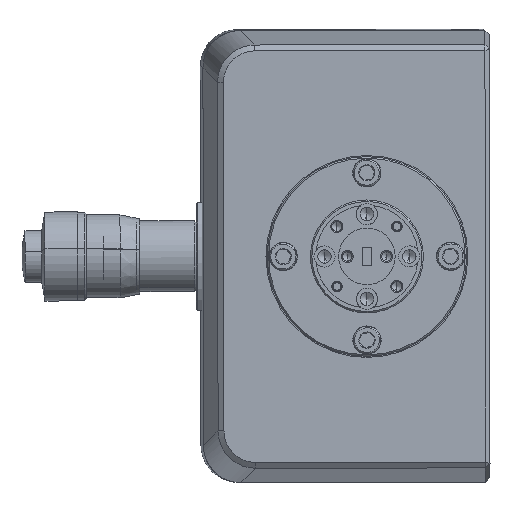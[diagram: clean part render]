
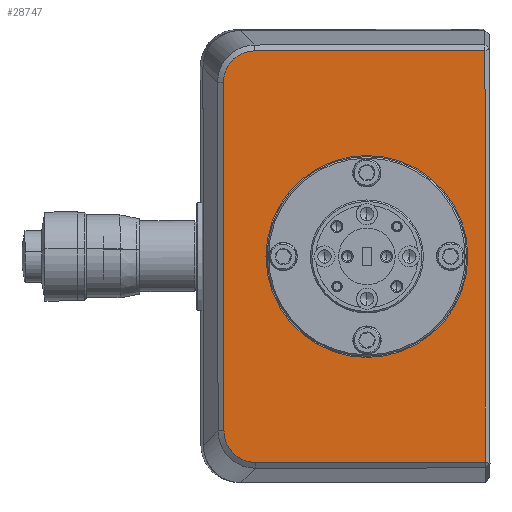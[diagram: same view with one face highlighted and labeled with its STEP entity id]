
A CAD part, left-side view. The second image highlights one B-rep face of the part: STEP entity #28747.
In plain terms, the highlighted planar face has unit normal (-1, -0.002, -0.001).
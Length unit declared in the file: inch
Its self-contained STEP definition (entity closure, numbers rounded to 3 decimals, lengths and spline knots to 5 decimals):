
#11 = EDGE_CURVE ( 'NONE', #9768, #22470, #25465, .T. ) ;
#43 = LINE ( 'NONE', #30064, #4900 ) ;
#2457 = ORIENTED_EDGE ( 'NONE', *, *, #20871, .T. ) ;
#2834 = CARTESIAN_POINT ( 'NONE',  ( -3.34511, -6.70695, -0.03451 ) ) ;
#2913 = CARTESIAN_POINT ( 'NONE',  ( -3.34369, -6.74883, -2.64268 ) ) ;
#3746 = CARTESIAN_POINT ( 'NONE',  ( -3.34302, -7.61697, -1.31819 ) ) ;
#3754 = VECTOR ( 'NONE', #79332, 39.37008 ) ;
#4823 = CARTESIAN_POINT ( 'NONE',  ( -3.34489, -6.87405, 0.04592 ) ) ;
#4900 = VECTOR ( 'NONE', #29656, 39.37008 ) ;
#5838 = VECTOR ( 'NONE', #18060, 39.37008 ) ;
#6016 = AXIS2_PLACEMENT_3D ( 'NONE', #56012, #50329, #24823 ) ;
#8193 = CARTESIAN_POINT ( 'NONE',  ( -3.34389, -6.66843, -2.50307 ) ) ;
#8498 = CARTESIAN_POINT ( 'NONE',  ( -3.34507, -6.74541, 0.00403 ) ) ;
#9415 = CARTESIAN_POINT ( 'NONE',  ( -3.34377, -6.71028, -2.60422 ) ) ;
#9500 = CARTESIAN_POINT ( 'NONE',  ( -3.34267, -7.61784, -1.98819 ) ) ;
#9768 = VERTEX_POINT ( 'NONE', #40094 ) ;
#11404 = ORIENTED_EDGE ( 'NONE', *, *, #11, .T. ) ;
#13322 = VECTOR ( 'NONE', #25897, 39.37008 ) ;
#15455 = CARTESIAN_POINT ( 'NONE',  ( -3.34504, -6.76862, 0.01956 ) ) ;
#15569 = DIRECTION ( 'NONE',  ( -1., -0.002, -0.001 ) ) ;
#15940 = CARTESIAN_POINT ( 'NONE',  ( -3.34347, -6.87759, -2.68423 ) ) ;
#16104 = VERTEX_POINT ( 'NONE', #22390 ) ;
#18060 = DIRECTION ( 'NONE',  ( 0.002, -1., 0.001 ) ) ;
#20376 = CARTESIAN_POINT ( 'NONE',  ( -3.34387, -6.6739, -2.53056 ) ) ;
#20871 = EDGE_CURVE ( 'NONE', #35560, #9768, #66688, .T. ) ;
#21774 = CARTESIAN_POINT ( 'NONE',  ( -3.34511, -6.6654, -0.16327 ) ) ;
#22390 = CARTESIAN_POINT ( 'NONE',  ( -3.34391, -6.6684, -2.47558 ) ) ;
#22470 = VERTEX_POINT ( 'NONE', #73105 ) ;
#23542 = B_SPLINE_CURVE_WITH_KNOTS ( 'NONE', 3,
 ( #69815, #8193, #20376, #40578, #9415, #2913, #33313, #32923, #59243, #15940 ),
 .UNSPECIFIED., .F., .F.,
 ( 4, 2, 2, 2, 4 ),
 ( 0., 0.25, 0.5, 0.75, 1. ),
 .UNSPECIFIED. ) ;
#24823 = DIRECTION ( 'NONE',  ( 0.001, -0.001, -1. ) ) ;
#25237 = ORIENTED_EDGE ( 'NONE', *, *, #73577, .T. ) ;
#25465 = LINE ( 'NONE', #49759, #13322 ) ;
#25897 = DIRECTION ( 'NONE',  ( -0.001, 0.001, 1. ) ) ;
#26037 = ORIENTED_EDGE ( 'NONE', *, *, #51695, .F. ) ;
#27271 = ORIENTED_EDGE ( 'NONE', *, *, #27786, .F. ) ;
#27786 = EDGE_CURVE ( 'NONE', #57842, #35313, #32489, .T. ) ;
#28373 = EDGE_LOOP ( 'NONE', ( #26037, #27271 ) ) ;
#28747 = ADVANCED_FACE ( 'NONE', ( #60917, #43012 ), #78756, .F. ) ;
#29656 = DIRECTION ( 'NONE',  ( -0.002, 1., -0.001 ) ) ;
#30064 = CARTESIAN_POINT ( 'NONE',  ( -3.34394, -7.4802, 0.04671 ) ) ;
#32489 = CIRCLE ( 'NONE', #54552, 0.67 ) ;
#32923 = CARTESIAN_POINT ( 'NONE',  ( -3.34356, -6.82259, -2.67887 ) ) ;
#33229 = CARTESIAN_POINT ( 'NONE',  ( -3.34512, -6.6915, -0.05777 ) ) ;
#33313 = CARTESIAN_POINT ( 'NONE',  ( -3.34365, -6.77209, -2.65813 ) ) ;
#35313 = VERTEX_POINT ( 'NONE', #62591 ) ;
#35560 = VERTEX_POINT ( 'NONE', #72946 ) ;
#37311 = DIRECTION ( 'NONE',  ( -1., -0.002, -0.001 ) ) ;
#38785 = EDGE_CURVE ( 'NONE', #45773, #64054, #62406, .T. ) ;
#39288 = CARTESIAN_POINT ( 'NONE',  ( -3.34498, -6.81907, 0.04042 ) ) ;
#40094 = CARTESIAN_POINT ( 'NONE',  ( -3.34109, -8.40374, -2.68225 ) ) ;
#40213 = DIRECTION ( 'NONE',  ( -0.001, 0.001, 1. ) ) ;
#40495 = EDGE_CURVE ( 'NONE', #22470, #45773, #43, .T. ) ;
#40578 = CARTESIAN_POINT ( 'NONE',  ( -3.34381, -6.69476, -2.58101 ) ) ;
#41603 = LINE ( 'NONE', #48100, #3754 ) ;
#43012 = FACE_BOUND ( 'NONE', #28373, .T. ) ;
#45000 = DIRECTION ( 'NONE',  ( -0.001, 0.001, 1. ) ) ;
#45373 = CARTESIAN_POINT ( 'NONE',  ( -3.34489, -6.87405, 0.04592 ) ) ;
#45773 = VERTEX_POINT ( 'NONE', #4823 ) ;
#46153 = CARTESIAN_POINT ( 'NONE',  ( -3.34511, -6.6654, -0.16327 ) ) ;
#46218 = CIRCLE ( 'NONE', #50102, 0.67 ) ;
#47695 = EDGE_CURVE ( 'NONE', #16104, #35560, #23542, .T. ) ;
#48100 = CARTESIAN_POINT ( 'NONE',  ( -3.34451, -6.6669, -1.31942 ) ) ;
#49759 = CARTESIAN_POINT ( 'NONE',  ( -3.3418, -8.40197, -1.31717 ) ) ;
#50102 = AXIS2_PLACEMENT_3D ( 'NONE', #3746, #15569, #40213 ) ;
#50329 = DIRECTION ( 'NONE',  ( 1., 0.002, 0.001 ) ) ;
#51695 = EDGE_CURVE ( 'NONE', #35313, #57842, #46218, .T. ) ;
#52260 = CARTESIAN_POINT ( 'NONE',  ( -3.34513, -6.67076, -0.10827 ) ) ;
#54552 = AXIS2_PLACEMENT_3D ( 'NONE', #62475, #37311, #45000 ) ;
#56012 = CARTESIAN_POINT ( 'NONE',  ( -3.34323, -7.48197, -1.31837 ) ) ;
#56665 = ORIENTED_EDGE ( 'NONE', *, *, #38785, .T. ) ;
#57842 = VERTEX_POINT ( 'NONE', #9500 ) ;
#59243 = CARTESIAN_POINT ( 'NONE',  ( -3.34351, -6.85004, -2.68427 ) ) ;
#60917 = FACE_OUTER_BOUND ( 'NONE', #73433, .T. ) ;
#62406 = B_SPLINE_CURVE_WITH_KNOTS ( 'NONE', 3,
 ( #45373, #70126, #39288, #15455, #8498, #2834, #33229, #52260, #76998, #46153 ),
 .UNSPECIFIED., .F., .F.,
 ( 4, 2, 2, 2, 4 ),
 ( 0., 0.25, 0.5, 0.75, 1. ),
 .UNSPECIFIED. ) ;
#62475 = CARTESIAN_POINT ( 'NONE',  ( -3.34302, -7.61697, -1.31819 ) ) ;
#62591 = CARTESIAN_POINT ( 'NONE',  ( -3.34337, -7.6161, -0.64819 ) ) ;
#64054 = VERTEX_POINT ( 'NONE', #21774 ) ;
#66688 = LINE ( 'NONE', #73123, #5838 ) ;
#69815 = CARTESIAN_POINT ( 'NONE',  ( -3.34391, -6.6684, -2.47558 ) ) ;
#70126 = CARTESIAN_POINT ( 'NONE',  ( -3.34494, -6.84656, 0.04589 ) ) ;
#72946 = CARTESIAN_POINT ( 'NONE',  ( -3.34347, -6.87759, -2.68423 ) ) ;
#73105 = CARTESIAN_POINT ( 'NONE',  ( -3.34251, -8.4002, 0.0479 ) ) ;
#73123 = CARTESIAN_POINT ( 'NONE',  ( -3.34252, -7.48374, -2.68344 ) ) ;
#73433 = EDGE_LOOP ( 'NONE', ( #76890, #2457, #11404, #75031, #56665, #25237 ) ) ;
#73577 = EDGE_CURVE ( 'NONE', #64054, #16104, #41603, .T. ) ;
#75031 = ORIENTED_EDGE ( 'NONE', *, *, #40495, .T. ) ;
#76890 = ORIENTED_EDGE ( 'NONE', *, *, #47695, .T. ) ;
#76998 = CARTESIAN_POINT ( 'NONE',  ( -3.34512, -6.66536, -0.13572 ) ) ;
#78756 = PLANE ( 'NONE',  #6016 ) ;
#79332 = DIRECTION ( 'NONE',  ( 0.001, -0.001, -1. ) ) ;
